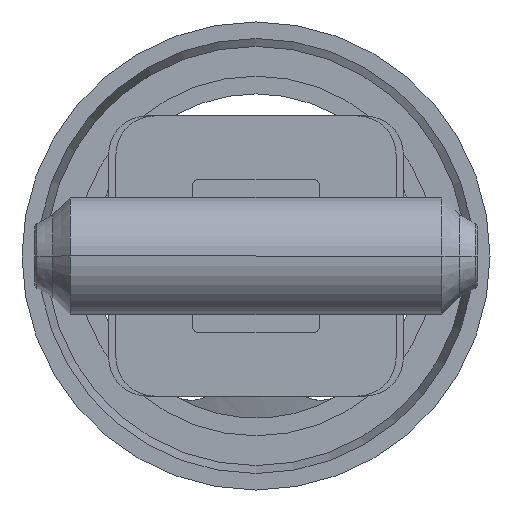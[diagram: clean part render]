
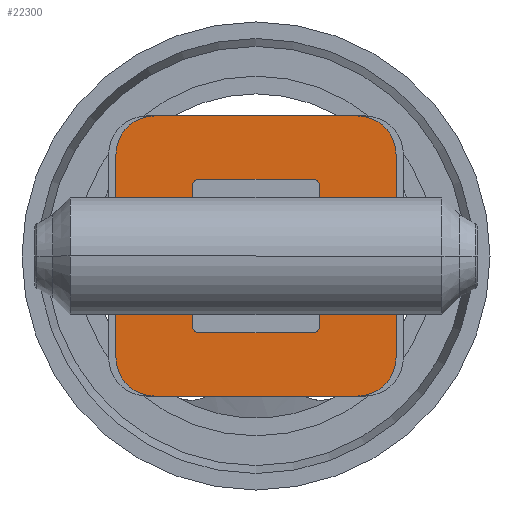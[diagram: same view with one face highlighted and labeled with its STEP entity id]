
A CAD part, front view. The second image highlights one B-rep face of the part: STEP entity #22300.
In plain terms, the highlighted planar face has unit normal (0, -1, 0).
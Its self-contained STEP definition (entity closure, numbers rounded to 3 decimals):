
#1070=CARTESIAN_POINT('',(96.533,39.,18.284));
#1080=VERTEX_POINT('',#1070);
#1110=CARTESIAN_POINT('',(89.977,39.,0.));
#1120=DIRECTION('',(0.,-1.,-0.));
#1130=DIRECTION('',(1.,0.,0.));
#1140=AXIS2_PLACEMENT_3D('',#1110,#1120,#1130);
#1150=ELLIPSE('',#1140,24.111,19.);
#1160=CARTESIAN_POINT('',(96.533,39.,-18.284));
#1170=VERTEX_POINT('',#1160);
#1180=EDGE_CURVE('',#1170,#1080,#1150,.T.);
#8130=CARTESIAN_POINT('',(122.5,39.,-34.5));
#8140=VERTEX_POINT('',#8130);
#8300=CARTESIAN_POINT('',(109.5,39.,-47.5));
#8310=VERTEX_POINT('',#8300);
#8340=CARTESIAN_POINT('',(109.5,39.,-34.5));
#8350=DIRECTION('',(-0.,1.,0.));
#8360=DIRECTION('',(1.,0.,0.));
#8370=AXIS2_PLACEMENT_3D('',#8340,#8350,#8360);
#8380=CIRCLE('',#8370,13.);
#8390=EDGE_CURVE('',#8140,#8310,#8380,.T.);
#8550=CARTESIAN_POINT('',(40.5,39.,-47.5));
#8560=VERTEX_POINT('',#8550);
#8720=CARTESIAN_POINT('',(27.5,39.,-34.5));
#8730=VERTEX_POINT('',#8720);
#8760=CARTESIAN_POINT('',(40.5,39.,-34.5));
#8770=DIRECTION('',(0.,1.,0.));
#8780=DIRECTION('',(0.,0.,-1.));
#8790=AXIS2_PLACEMENT_3D('',#8760,#8770,#8780);
#8800=CIRCLE('',#8790,13.);
#8810=EDGE_CURVE('',#8560,#8730,#8800,.T.);
#8970=CARTESIAN_POINT('',(40.5,39.,47.5));
#8980=VERTEX_POINT('',#8970);
#9130=CARTESIAN_POINT('',(109.5,39.,47.5));
#9140=VERTEX_POINT('',#9130);
#9170=CARTESIAN_POINT('',(40.5,39.,47.5));
#9180=DIRECTION('',(1.,0.,0.));
#9190=VECTOR('',#9180,1.);
#9200=LINE('',#9170,#9190);
#9210=EDGE_CURVE('',#8980,#9140,#9200,.T.);
#9310=CARTESIAN_POINT('',(32.,39.,3.));
#9320=DIRECTION('',(0.,0.,1.));
#9330=VECTOR('',#9320,1.);
#9340=LINE('',#9310,#9330);
#9350=CARTESIAN_POINT('',(32.,39.,-6.));
#9360=VERTEX_POINT('',#9350);
#9370=CARTESIAN_POINT('',(32.,39.,6.));
#9380=VERTEX_POINT('',#9370);
#9390=EDGE_CURVE('',#9360,#9380,#9340,.T.);
#9770=CARTESIAN_POINT('',(122.5,39.,34.5));
#9780=VERTEX_POINT('',#9770);
#9880=CARTESIAN_POINT('',(122.5,39.,34.5));
#9890=DIRECTION('',(0.,0.,-1.));
#9900=VECTOR('',#9890,1.);
#9910=LINE('',#9880,#9900);
#9920=EDGE_CURVE('',#9780,#8140,#9910,.T.);
#10750=CARTESIAN_POINT('',(75.,39.,6.));
#10760=DIRECTION('',(1.,0.,0.));
#10770=VECTOR('',#10760,1.);
#10780=LINE('',#10750,#10770);
#10790=CARTESIAN_POINT('',(47.65,39.,6.));
#10800=VERTEX_POINT('',#10790);
#10810=EDGE_CURVE('',#9380,#10800,#10780,.T.);
#14020=CARTESIAN_POINT('',(94.5,39.,26.));
#14030=VERTEX_POINT('',#14020);
#14180=CARTESIAN_POINT('',(55.5,39.,26.));
#14190=VERTEX_POINT('',#14180);
#14220=CARTESIAN_POINT('',(84.75,39.,26.));
#14230=DIRECTION('',(1.,0.,0.));
#14240=VECTOR('',#14230,1.);
#14250=LINE('',#14220,#14240);
#14260=EDGE_CURVE('',#14190,#14030,#14250,.T.);
#14700=CARTESIAN_POINT('',(98.5,39.,-18.648));
#14710=DIRECTION('',(-0.,-1.,0.));
#14720=DIRECTION('',(-0.783,0.,0.622));
#14730=AXIS2_PLACEMENT_3D('',#14700,#14710,#14720);
#14740=CIRCLE('',#14730,2.);
#14750=CARTESIAN_POINT('',(96.5,39.,-18.648));
#14760=VERTEX_POINT('',#14750);
#14770=EDGE_CURVE('',#1170,#14760,#14740,.T.);
#14940=CARTESIAN_POINT('',(75.,39.,0.));
#14950=DIRECTION('',(0.,1.,0.));
#14960=DIRECTION('',(-0.783,0.,-0.622));
#14970=AXIS2_PLACEMENT_3D('',#14940,#14950,#14960);
#14980=CIRCLE('',#14970,28.);
#14990=CARTESIAN_POINT('',(53.067,39.,17.405));
#15000=VERTEX_POINT('',#14990);
#15010=EDGE_CURVE('',#10800,#15000,#14980,.T.);
#15410=CARTESIAN_POINT('',(96.5,39.,18.648));
#15420=VERTEX_POINT('',#15410);
#15450=CARTESIAN_POINT('',(98.5,39.,18.648));
#15460=DIRECTION('',(0.,-1.,-0.));
#15470=DIRECTION('',(-1.,0.,0.));
#15480=AXIS2_PLACEMENT_3D('',#15450,#15460,#15470);
#15490=CIRCLE('',#15480,2.);
#15500=EDGE_CURVE('',#15420,#1080,#15490,.T.);
#15620=CARTESIAN_POINT('',(51.5,39.,18.648));
#15630=DIRECTION('',(0.,-1.,-0.));
#15640=DIRECTION('',(0.783,0.,-0.622));
#15650=AXIS2_PLACEMENT_3D('',#15620,#15630,#15640);
#15660=CIRCLE('',#15650,2.);
#15670=CARTESIAN_POINT('',(53.5,39.,18.648));
#15680=VERTEX_POINT('',#15670);
#15690=EDGE_CURVE('',#15000,#15680,#15660,.T.);
#16510=CARTESIAN_POINT('',(53.5,39.,-18.648));
#16520=VERTEX_POINT('',#16510);
#16550=CARTESIAN_POINT('',(51.5,39.,-18.648));
#16560=DIRECTION('',(0.,-1.,-0.));
#16570=DIRECTION('',(1.,0.,0.));
#16580=AXIS2_PLACEMENT_3D('',#16550,#16560,#16570);
#16590=CIRCLE('',#16580,2.);
#16600=CARTESIAN_POINT('',(53.067,39.,-17.405));
#16610=VERTEX_POINT('',#16600);
#16620=EDGE_CURVE('',#16520,#16610,#16590,.T.);
#16850=CARTESIAN_POINT('',(53.5,39.,-24.));
#16860=VERTEX_POINT('',#16850);
#17020=CARTESIAN_POINT('',(55.5,39.,-26.));
#17030=VERTEX_POINT('',#17020);
#17060=CARTESIAN_POINT('',(55.5,39.,-24.));
#17070=DIRECTION('',(0.,1.,0.));
#17080=DIRECTION('',(0.,0.,-1.));
#17090=AXIS2_PLACEMENT_3D('',#17060,#17070,#17080);
#17100=CIRCLE('',#17090,2.);
#17110=EDGE_CURVE('',#17030,#16860,#17100,.T.);
#17340=CARTESIAN_POINT('',(94.5,39.,-26.));
#17350=VERTEX_POINT('',#17340);
#17380=CARTESIAN_POINT('',(65.25,39.,-26.));
#17390=DIRECTION('',(-1.,0.,0.));
#17400=VECTOR('',#17390,1.);
#17410=LINE('',#17380,#17400);
#17420=EDGE_CURVE('',#17350,#17030,#17410,.T.);
#17660=CARTESIAN_POINT('',(96.5,39.,-24.));
#17670=VERTEX_POINT('',#17660);
#17700=CARTESIAN_POINT('',(94.5,39.,-24.));
#17710=DIRECTION('',(-0.,1.,0.));
#17720=DIRECTION('',(1.,0.,0.));
#17730=AXIS2_PLACEMENT_3D('',#17700,#17710,#17720);
#17740=CIRCLE('',#17730,2.);
#17750=EDGE_CURVE('',#17670,#17350,#17740,.T.);
#17930=CARTESIAN_POINT('',(96.5,39.,-12.));
#17940=DIRECTION('',(0.,0.,-1.));
#17950=VECTOR('',#17940,1.);
#17960=LINE('',#17930,#17950);
#17970=EDGE_CURVE('',#14760,#17670,#17960,.T.);
#18350=CARTESIAN_POINT('',(96.5,39.,24.));
#18360=VERTEX_POINT('',#18350);
#18390=CARTESIAN_POINT('',(96.5,39.,9.324));
#18400=DIRECTION('',(0.,0.,-1.));
#18410=VECTOR('',#18400,1.);
#18420=LINE('',#18390,#18410);
#18430=EDGE_CURVE('',#18360,#15420,#18420,.T.);
#18580=CARTESIAN_POINT('',(94.5,39.,24.));
#18590=DIRECTION('',(0.,1.,0.));
#18600=DIRECTION('',(0.,0.,1.));
#18610=AXIS2_PLACEMENT_3D('',#18580,#18590,#18600);
#18620=CIRCLE('',#18610,2.);
#18630=EDGE_CURVE('',#14030,#18360,#18620,.T.);
#19240=CARTESIAN_POINT('',(53.5,39.,24.));
#19250=VERTEX_POINT('',#19240);
#19280=CARTESIAN_POINT('',(55.5,39.,24.));
#19290=DIRECTION('',(0.,1.,0.));
#19300=DIRECTION('',(-1.,0.,0.));
#19310=AXIS2_PLACEMENT_3D('',#19280,#19290,#19300);
#19320=CIRCLE('',#19310,2.);
#19330=EDGE_CURVE('',#19250,#14190,#19320,.T.);
#19450=CARTESIAN_POINT('',(75.,39.,0.));
#19460=DIRECTION('',(0.,1.,0.));
#19470=DIRECTION('',(-0.783,0.,-0.622));
#19480=AXIS2_PLACEMENT_3D('',#19450,#19460,#19470);
#19490=CIRCLE('',#19480,28.);
#19500=CARTESIAN_POINT('',(47.65,39.,-6.));
#19510=VERTEX_POINT('',#19500);
#19520=EDGE_CURVE('',#16610,#19510,#19490,.T.);
#19900=CARTESIAN_POINT('',(53.5,39.,9.5));
#19910=DIRECTION('',(0.,-0.,1.));
#19920=VECTOR('',#19910,1.);
#19930=LINE('',#19900,#19920);
#19940=EDGE_CURVE('',#16860,#16520,#19930,.T.);
#20320=CARTESIAN_POINT('',(53.5,39.,9.5));
#20330=DIRECTION('',(0.,-0.,1.));
#20340=VECTOR('',#20330,1.);
#20350=LINE('',#20320,#20340);
#20360=EDGE_CURVE('',#15680,#19250,#20350,.T.);
#20560=CARTESIAN_POINT('',(75.,39.,-6.));
#20570=DIRECTION('',(-1.,0.,0.));
#20580=VECTOR('',#20570,1.);
#20590=LINE('',#20560,#20580);
#20600=EDGE_CURVE('',#19510,#9360,#20590,.T.);
#21410=CARTESIAN_POINT('',(109.5,39.,34.5));
#21420=DIRECTION('',(0.,1.,0.));
#21430=DIRECTION('',(0.,0.,1.));
#21440=AXIS2_PLACEMENT_3D('',#21410,#21420,#21430);
#21450=CIRCLE('',#21440,13.);
#21460=EDGE_CURVE('',#9140,#9780,#21450,.T.);
#21750=CARTESIAN_POINT('',(75.,39.,0.));
#21760=DIRECTION('',(0.,1.,0.));
#21770=DIRECTION('',(0.,0.,1.));
#21780=AXIS2_PLACEMENT_3D('',#21750,#21760,#21770);
#21790=PLANE('',#21780);
#21800=ORIENTED_EDGE('',*,*,#16620,.T.);
#21810=ORIENTED_EDGE('',*,*,#19940,.T.);
#21820=ORIENTED_EDGE('',*,*,#17110,.T.);
#21830=ORIENTED_EDGE('',*,*,#17420,.T.);
#21840=ORIENTED_EDGE('',*,*,#17750,.T.);
#21850=ORIENTED_EDGE('',*,*,#17970,.T.);
#21860=ORIENTED_EDGE('',*,*,#14770,.T.);
#21870=ORIENTED_EDGE('',*,*,#1180,.F.);
#21880=ORIENTED_EDGE('',*,*,#15500,.T.);
#21890=ORIENTED_EDGE('',*,*,#18430,.T.);
#21900=ORIENTED_EDGE('',*,*,#18630,.T.);
#21910=ORIENTED_EDGE('',*,*,#14260,.T.);
#21920=ORIENTED_EDGE('',*,*,#19330,.T.);
#21930=ORIENTED_EDGE('',*,*,#20360,.T.);
#21940=ORIENTED_EDGE('',*,*,#15690,.T.);
#21950=ORIENTED_EDGE('',*,*,#15010,.T.);
#21960=ORIENTED_EDGE('',*,*,#10810,.T.);
#21970=ORIENTED_EDGE('',*,*,#9390,.T.);
#21980=ORIENTED_EDGE('',*,*,#20600,.T.);
#21990=ORIENTED_EDGE('',*,*,#19520,.T.);
#22000=EDGE_LOOP('',(#21990,#21980,#21970,#21960,#21950,#21940,#21930,
#21920,#21910,#21900,#21890,#21880,#21870,#21860,#21850,#21840,#21830,
#21820,#21810,#21800));
#22010=FACE_BOUND('',#22000,.T.);
#22020=ORIENTED_EDGE('',*,*,#9210,.F.);
#22030=ORIENTED_EDGE('',*,*,#21460,.F.);
#22040=ORIENTED_EDGE('',*,*,#9920,.F.);
#22050=ORIENTED_EDGE('',*,*,#8390,.F.);
#22060=CARTESIAN_POINT('',(109.5,39.,-47.5));
#22070=DIRECTION('',(-1.,0.,0.));
#22080=VECTOR('',#22070,1.);
#22090=LINE('',#22060,#22080);
#22100=EDGE_CURVE('',#8310,#8560,#22090,.T.);
#22110=ORIENTED_EDGE('',*,*,#22100,.F.);
#22120=ORIENTED_EDGE('',*,*,#8810,.F.);
#22130=CARTESIAN_POINT('',(27.5,39.,-34.5));
#22140=DIRECTION('',(0.,0.,1.));
#22150=VECTOR('',#22140,1.);
#22160=LINE('',#22130,#22150);
#22170=CARTESIAN_POINT('',(27.5,39.,34.5));
#22180=VERTEX_POINT('',#22170);
#22190=EDGE_CURVE('',#8730,#22180,#22160,.T.);
#22200=ORIENTED_EDGE('',*,*,#22190,.F.);
#22210=CARTESIAN_POINT('',(40.5,39.,34.5));
#22220=DIRECTION('',(0.,1.,0.));
#22230=DIRECTION('',(-1.,0.,0.));
#22240=AXIS2_PLACEMENT_3D('',#22210,#22220,#22230);
#22250=CIRCLE('',#22240,13.);
#22260=EDGE_CURVE('',#22180,#8980,#22250,.T.);
#22270=ORIENTED_EDGE('',*,*,#22260,.F.);
#22280=EDGE_LOOP('',(#22270,#22200,#22120,#22110,#22050,#22040,#22030,
#22020));
#22290=FACE_OUTER_BOUND('',#22280,.T.);
#22300=ADVANCED_FACE('',(#22010,#22290),#21790,.F.);
